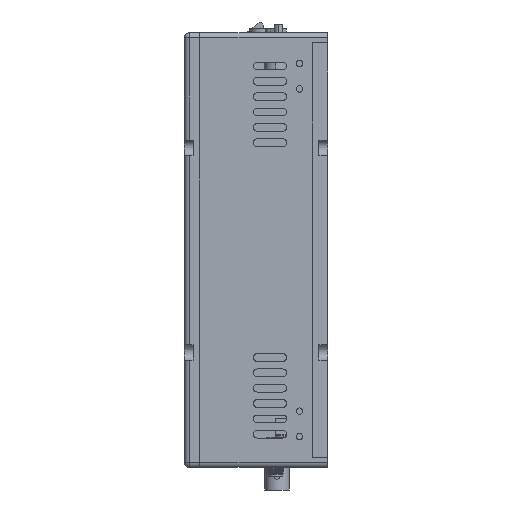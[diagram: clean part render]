
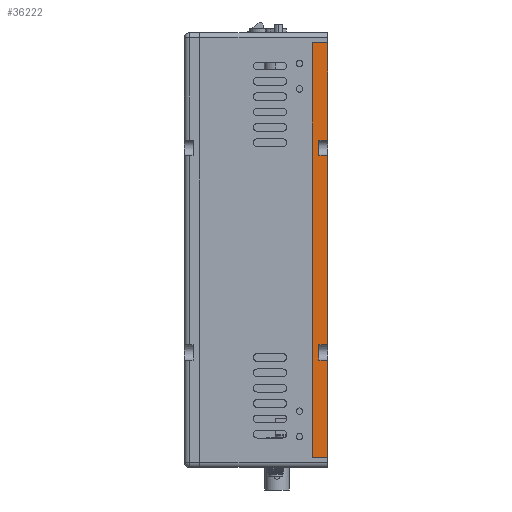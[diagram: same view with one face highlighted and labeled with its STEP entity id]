
A CAD part, left-side view. The second image highlights one B-rep face of the part: STEP entity #36222.
In plain terms, the highlighted planar face has unit normal (-1, 0, 0).
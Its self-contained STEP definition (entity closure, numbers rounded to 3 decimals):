
#20 = ORIENTED_EDGE ( 'NONE', *, *, #35507, .T. ) ;
#127 = DIRECTION ( 'NONE',  ( 0., -1., 0. ) ) ;
#174 = CARTESIAN_POINT ( 'NONE',  ( -97.289, -3.501, 243. ) ) ;
#1704 = DIRECTION ( 'NONE',  ( 0., 0., 1. ) ) ;
#1726 = CARTESIAN_POINT ( 'NONE',  ( -97.289, -6.901, 237. ) ) ;
#1963 = CARTESIAN_POINT ( 'NONE',  ( -97.289, -3.501, 157. ) ) ;
#2062 = CARTESIAN_POINT ( 'NONE',  ( -97.289, -6.901, 243. ) ) ;
#2243 = DIRECTION ( 'NONE',  ( 0., 0., 1. ) ) ;
#2491 = VERTEX_POINT ( 'NONE', #19291 ) ;
#3757 = EDGE_CURVE ( 'NONE', #12212, #13171, #31271, .T. ) ;
#3894 = VECTOR ( 'NONE', #19196, 1000. ) ;
#4249 = VECTOR ( 'NONE', #20105, 1000. ) ;
#4537 = EDGE_CURVE ( 'NONE', #19464, #30952, #20710, .T. ) ;
#4560 = DIRECTION ( 'NONE',  ( 0., 0., 1. ) ) ;
#4600 = EDGE_CURVE ( 'NONE', #13171, #34666, #35329, .T. ) ;
#4885 = EDGE_CURVE ( 'NONE', #2491, #34666, #24350, .T. ) ;
#5205 = CARTESIAN_POINT ( 'NONE',  ( -97.289, -3.501, 157. ) ) ;
#5491 = EDGE_CURVE ( 'NONE', #30975, #13130, #27073, .T. ) ;
#5678 = DIRECTION ( 'NONE',  ( 0., -1., 0. ) ) ;
#5703 = VECTOR ( 'NONE', #37696, 1000. ) ;
#6457 = EDGE_CURVE ( 'NONE', #12212, #31024, #22878, .T. ) ;
#6964 = ORIENTED_EDGE ( 'NONE', *, *, #7675, .T. ) ;
#7437 = CARTESIAN_POINT ( 'NONE',  ( -97.289, -0.901, 281. ) ) ;
#7675 = EDGE_CURVE ( 'NONE', #31024, #13130, #15520, .T. ) ;
#7852 = CARTESIAN_POINT ( 'NONE',  ( -97.289, -6.901, 157. ) ) ;
#8392 = CARTESIAN_POINT ( 'NONE',  ( -97.289, -3.501, 237. ) ) ;
#8852 = VECTOR ( 'NONE', #2243, 1000. ) ;
#9297 = LINE ( 'NONE', #1963, #12009 ) ;
#10453 = PLANE ( 'NONE',  #12181 ) ;
#11000 = VECTOR ( 'NONE', #18250, 1000. ) ;
#11112 = DIRECTION ( 'NONE',  ( 0., -1., 0. ) ) ;
#11738 = EDGE_LOOP ( 'NONE', ( #26424, #25521, #32441, #16043, #12242, #6964, #32923, #28558, #34154, #20, #26822, #35577 ) ) ;
#12009 = VECTOR ( 'NONE', #1704, 1000. ) ;
#12054 = DIRECTION ( 'NONE',  ( 0., -1., 0. ) ) ;
#12181 = AXIS2_PLACEMENT_3D ( 'NONE', #7437, #36352, #25131 ) ;
#12212 = VERTEX_POINT ( 'NONE', #174 ) ;
#12242 = ORIENTED_EDGE ( 'NONE', *, *, #6457, .T. ) ;
#12430 = VERTEX_POINT ( 'NONE', #24270 ) ;
#13126 = EDGE_CURVE ( 'NONE', #17954, #12430, #18399, .T. ) ;
#13130 = VERTEX_POINT ( 'NONE', #25612 ) ;
#13171 = VERTEX_POINT ( 'NONE', #8392 ) ;
#14825 = VECTOR ( 'NONE', #12054, 1000. ) ;
#15322 = EDGE_CURVE ( 'NONE', #17954, #30975, #30710, .T. ) ;
#15520 = LINE ( 'NONE', #26988, #11000 ) ;
#16043 = ORIENTED_EDGE ( 'NONE', *, *, #3757, .F. ) ;
#16433 = DIRECTION ( 'NONE',  ( 0., -1., 0. ) ) ;
#16472 = VECTOR ( 'NONE', #4560, 1000. ) ;
#16572 = FACE_OUTER_BOUND ( 'NONE', #11738, .T. ) ;
#17135 = CARTESIAN_POINT ( 'NONE',  ( -97.289, -6.901, 281. ) ) ;
#17954 = VERTEX_POINT ( 'NONE', #29590 ) ;
#17993 = CARTESIAN_POINT ( 'NONE',  ( -97.289, -3.501, 157. ) ) ;
#18250 = DIRECTION ( 'NONE',  ( 0., 0., 1. ) ) ;
#18399 = LINE ( 'NONE', #31604, #27123 ) ;
#19196 = DIRECTION ( 'NONE',  ( 0., 0., 1. ) ) ;
#19291 = CARTESIAN_POINT ( 'NONE',  ( -97.289, -6.901, 163. ) ) ;
#19340 = CARTESIAN_POINT ( 'NONE',  ( -97.289, -0.901, 281. ) ) ;
#19464 = VERTEX_POINT ( 'NONE', #17993 ) ;
#20105 = DIRECTION ( 'NONE',  ( 0., -1., 0. ) ) ;
#20710 = LINE ( 'NONE', #5205, #34391 ) ;
#22302 = VERTEX_POINT ( 'NONE', #30713 ) ;
#22655 = CARTESIAN_POINT ( 'NONE',  ( -97.289, -3.501, 243. ) ) ;
#22878 = LINE ( 'NONE', #31161, #29753 ) ;
#23310 = CARTESIAN_POINT ( 'NONE',  ( -97.289, -3.501, 163. ) ) ;
#24270 = CARTESIAN_POINT ( 'NONE',  ( -97.289, -6.901, 119. ) ) ;
#24350 = LINE ( 'NONE', #17135, #8852 ) ;
#24410 = EDGE_CURVE ( 'NONE', #22302, #2491, #34937, .T. ) ;
#24790 = VECTOR ( 'NONE', #11112, 1000. ) ;
#25131 = DIRECTION ( 'NONE',  ( 0., 0., -1. ) ) ;
#25521 = ORIENTED_EDGE ( 'NONE', *, *, #4885, .T. ) ;
#25612 = CARTESIAN_POINT ( 'NONE',  ( -97.289, -6.901, 281. ) ) ;
#25923 = CARTESIAN_POINT ( 'NONE',  ( -97.289, -0.901, 281. ) ) ;
#26424 = ORIENTED_EDGE ( 'NONE', *, *, #24410, .T. ) ;
#26822 = ORIENTED_EDGE ( 'NONE', *, *, #4537, .F. ) ;
#26988 = CARTESIAN_POINT ( 'NONE',  ( -97.289, -6.901, 281. ) ) ;
#27073 = LINE ( 'NONE', #25923, #24790 ) ;
#27123 = VECTOR ( 'NONE', #5678, 1000. ) ;
#28454 = CARTESIAN_POINT ( 'NONE',  ( -97.289, -6.901, 281. ) ) ;
#28558 = ORIENTED_EDGE ( 'NONE', *, *, #15322, .F. ) ;
#29501 = LINE ( 'NONE', #28454, #3894 ) ;
#29590 = CARTESIAN_POINT ( 'NONE',  ( -97.289, -0.901, 119. ) ) ;
#29753 = VECTOR ( 'NONE', #16433, 1000. ) ;
#30710 = LINE ( 'NONE', #19340, #16472 ) ;
#30713 = CARTESIAN_POINT ( 'NONE',  ( -97.289, -3.501, 163. ) ) ;
#30952 = VERTEX_POINT ( 'NONE', #7852 ) ;
#30975 = VERTEX_POINT ( 'NONE', #33938 ) ;
#31024 = VERTEX_POINT ( 'NONE', #2062 ) ;
#31161 = CARTESIAN_POINT ( 'NONE',  ( -97.289, -3.501, 243. ) ) ;
#31271 = LINE ( 'NONE', #22655, #5703 ) ;
#31493 = CARTESIAN_POINT ( 'NONE',  ( -97.289, -3.501, 237. ) ) ;
#31604 = CARTESIAN_POINT ( 'NONE',  ( -97.289, -0.901, 119. ) ) ;
#32441 = ORIENTED_EDGE ( 'NONE', *, *, #4600, .F. ) ;
#32923 = ORIENTED_EDGE ( 'NONE', *, *, #5491, .F. ) ;
#33938 = CARTESIAN_POINT ( 'NONE',  ( -97.289, -0.901, 281. ) ) ;
#34154 = ORIENTED_EDGE ( 'NONE', *, *, #13126, .T. ) ;
#34391 = VECTOR ( 'NONE', #127, 1000. ) ;
#34666 = VERTEX_POINT ( 'NONE', #1726 ) ;
#34937 = LINE ( 'NONE', #23310, #14825 ) ;
#35329 = LINE ( 'NONE', #31493, #4249 ) ;
#35507 = EDGE_CURVE ( 'NONE', #12430, #30952, #29501, .T. ) ;
#35577 = ORIENTED_EDGE ( 'NONE', *, *, #37204, .T. ) ;
#36222 = ADVANCED_FACE ( 'NONE', ( #16572 ), #10453, .F. ) ;
#36352 = DIRECTION ( 'NONE',  ( 1., 0., 0. ) ) ;
#37204 = EDGE_CURVE ( 'NONE', #19464, #22302, #9297, .T. ) ;
#37696 = DIRECTION ( 'NONE',  ( 0., 0., -1. ) ) ;
